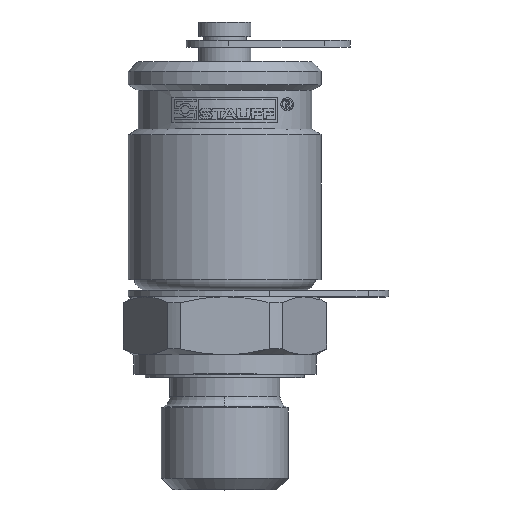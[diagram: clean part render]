
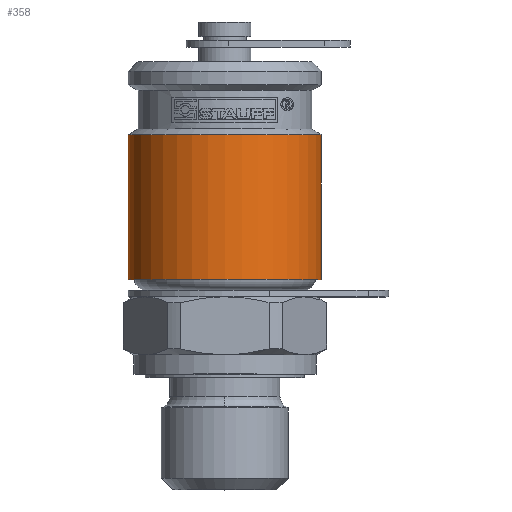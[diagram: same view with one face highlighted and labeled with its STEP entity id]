
A CAD part, top view. The second image highlights one B-rep face of the part: STEP entity #358.
In plain terms, the highlighted cylindrical face has radius 10 mm (diameter 20 mm), a partial arc.
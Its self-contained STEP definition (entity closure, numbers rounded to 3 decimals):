
#358=ADVANCED_FACE('',(#965),#966,.T.);
#965=FACE_OUTER_BOUND('',#1613,.T.);
#966=CYLINDRICAL_SURFACE('',#1614,10.0);
#1613=EDGE_LOOP('',(#3874,#3875,#3876,#3877));
#1614=AXIS2_PLACEMENT_3D('',#3878,#3879,#3880);
#3874=ORIENTED_EDGE('',*,*,#4333,.T.);
#3875=ORIENTED_EDGE('',*,*,#4827,.F.);
#3876=ORIENTED_EDGE('',*,*,#4335,.T.);
#3877=ORIENTED_EDGE('',*,*,#4826,.T.);
#3878=CARTESIAN_POINT('',(0.0,9.311,0.0));
#3879=DIRECTION('',(-0.0,1.0,0.0));
#3880=DIRECTION('',(1.0,0.0,0.0));
#4333=EDGE_CURVE('',#5229,#5221,#5230,.T.);
#4335=EDGE_CURVE('',#5224,#5231,#5233,.T.);
#4826=EDGE_CURVE('',#5231,#5229,#6047,.T.);
#4827=EDGE_CURVE('',#5224,#5221,#6048,.T.);
#5221=VERTEX_POINT('',#6806);
#5224=VERTEX_POINT('',#6810);
#5229=VERTEX_POINT('',#6816);
#5230=LINE('',#6817,#6818);
#5231=VERTEX_POINT('',#6819);
#5233=LINE('',#6821,#6822);
#6047=CIRCLE('',#8991,10.0);
#6048=CIRCLE('',#8992,10.0);
#6806=CARTESIAN_POINT('',(10.0,16.823,0.0));
#6810=CARTESIAN_POINT('',(-10.0,16.823,0.));
#6816=CARTESIAN_POINT('',(10.0,1.8,0.0));
#6817=CARTESIAN_POINT('',(10.0,9.311,0.));
#6818=VECTOR('',#9512,1.0);
#6819=CARTESIAN_POINT('',(-10.0,1.8,0.));
#6821=CARTESIAN_POINT('',(-10.0,9.311,0.));
#6822=VECTOR('',#9516,1.0);
#8991=AXIS2_PLACEMENT_3D('',#10195,#10196,#10197);
#8992=AXIS2_PLACEMENT_3D('',#10198,#10199,#10200);
#9512=DIRECTION('',(0.0,1.0,0.0));
#9516=DIRECTION('',(-0.0,-1.0,-0.0));
#10195=CARTESIAN_POINT('',(0.0,1.8,0.0));
#10196=DIRECTION('',(-0.0,1.0,0.0));
#10197=DIRECTION('',(1.0,0.0,0.0));
#10198=CARTESIAN_POINT('',(0.0,16.823,0.0));
#10199=DIRECTION('',(-0.0,1.0,0.0));
#10200=DIRECTION('',(1.0,0.0,0.0));
